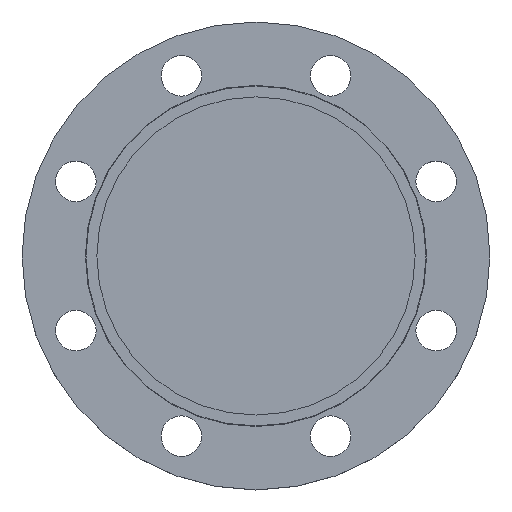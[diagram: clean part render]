
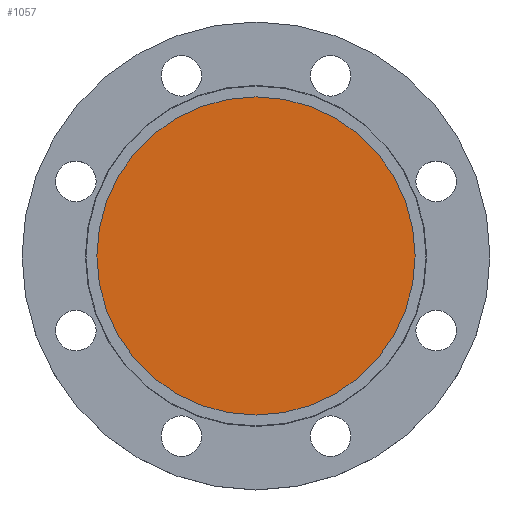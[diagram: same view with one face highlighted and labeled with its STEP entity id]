
A CAD part, top view. The second image highlights one B-rep face of the part: STEP entity #1057.
In plain terms, the highlighted planar face has unit normal (0, 0, 1).
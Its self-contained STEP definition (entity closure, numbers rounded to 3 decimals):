
#23 = CARTESIAN_POINT ( 'NONE',  ( -102., 0., -4.5 ) ) ;
#52 = DIRECTION ( 'NONE',  ( 1., 0., 0. ) ) ;
#53 = DIRECTION ( 'NONE',  ( 0., 0., 1. ) ) ;
#54 = CARTESIAN_POINT ( 'NONE',  ( 102., 0., -4.5 ) ) ;
#55 = PLANE ( 'NONE',  #333 ) ;
#57 = FACE_OUTER_BOUND ( 'NONE', #1116, .T. ) ;
#63 = DIRECTION ( 'NONE',  ( -1., 0., 0. ) ) ;
#64 = DIRECTION ( 'NONE',  ( 0., 0., -1. ) ) ;
#65 = CARTESIAN_POINT ( 'NONE',  ( 0., 0., -4.5 ) ) ;
#160 = AXIS2_PLACEMENT_3D ( 'NONE', #65, #64, #63 ) ;
#203 = DIRECTION ( 'NONE',  ( -1., 0., 0. ) ) ;
#204 = DIRECTION ( 'NONE',  ( 0., 0., -1. ) ) ;
#205 = CARTESIAN_POINT ( 'NONE',  ( 0., 0., -4.5 ) ) ;
#284 = CARTESIAN_POINT ( 'NONE',  ( 102., 0., -4.5 ) ) ;
#333 = AXIS2_PLACEMENT_3D ( 'NONE', #54, #53, #52 ) ;
#727 = VERTEX_POINT ( 'NONE', #284 ) ;
#760 = CIRCLE ( 'NONE', #994, 102. ) ;
#798 = CIRCLE ( 'NONE', #160, 102. ) ;
#839 = EDGE_CURVE ( 'NONE', #727, #1121, #760, .T. ) ;
#994 = AXIS2_PLACEMENT_3D ( 'NONE', #205, #204, #203 ) ;
#1048 = EDGE_CURVE ( 'NONE', #1121, #727, #798, .T. ) ;
#1057 = ADVANCED_FACE ( 'NONE', ( #57 ), #55, .T. ) ;
#1088 = ORIENTED_EDGE ( 'NONE', *, *, #1048, .F. ) ;
#1090 = ORIENTED_EDGE ( 'NONE', *, *, #839, .F. ) ;
#1116 = EDGE_LOOP ( 'NONE', ( #1088, #1090 ) ) ;
#1121 = VERTEX_POINT ( 'NONE', #23 ) ;
